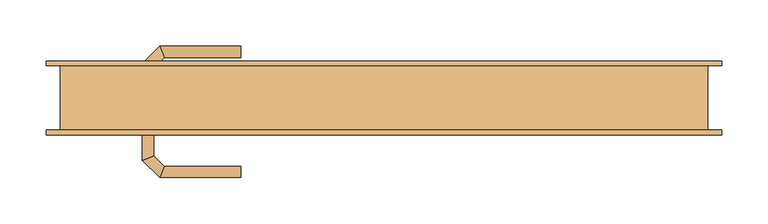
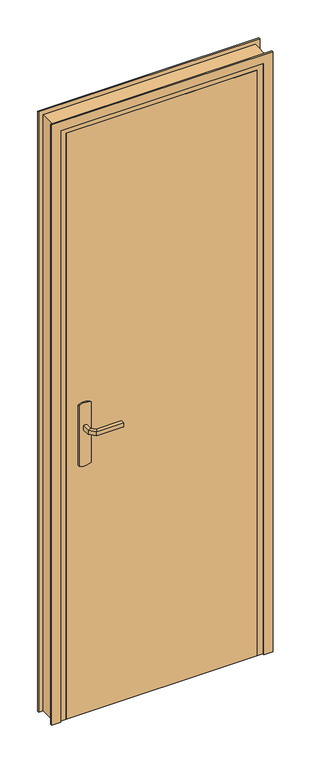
"""IFC4 building model written with IfcOpenShell, lengths in millimetres: door geometry, @_Int. Simple : @_PP (0.63m x 2.04m)."""

import ifcopenshell
import ifcopenshell.guid

model = None  # the IFC model being written
_history = None  # IfcOwnerHistory: only IFC2X3 demands one
_inside = {}  # id of a spatial element -> (the spatial element, [elements in it])
_under = {}  # id of a project, library or spatial element -> (it, [spatial elements below it])
_declared = {}  # id of a project -> (the project, [libraries it declares])
_typed = {}  # id of a type object -> (the type object, [elements of that type])
_made_of = {}  # id of a material, layer set ... -> (it, [elements and type objects made of it])


def new_model(schema):
    """Start an empty IFC model of exactly this schema.

    Asked for "IFC4X3", IfcOpenShell would pick the latest addendum, in which some entities
    have other attributes; the version numbers below select the first issue.
    IFC2X3 requires an IfcOwnerHistory on every rooted entity: one is made here for all.
    """
    global model, _history
    if schema == "IFC4X3":
        model = ifcopenshell.file(schema_version=(4, 3, 0, 0))
    else:
        model = ifcopenshell.file(schema=schema)
    _inside.clear()
    _under.clear()
    _declared.clear()
    _typed.clear()
    _made_of.clear()
    _history = None
    if model.schema == "IFC2X3":
        org = make("IfcOrganization", Name="unknown")
        user = make(
            "IfcPersonAndOrganization",
            ThePerson=make("IfcPerson", FamilyName="unknown"),
            TheOrganization=org,
        )
        app = make(
            "IfcApplication",
            ApplicationDeveloper=org,
            Version="unknown",
            ApplicationFullName="unknown",
            ApplicationIdentifier="unknown",
        )
        _history = make(
            "IfcOwnerHistory",
            OwningUser=user,
            OwningApplication=app,
            ChangeAction="ADDED",
            CreationDate=0,
        )
    return model


def make(cls, **values):
    """One entity of the class cls with the attributes given. An attribute that is None is left unset."""
    return model.create_entity(
        cls, **{name: value for name, value in values.items() if value is not None}
    )


def rooted(cls, **values):
    """An entity with a GlobalId (a new one), such as an element, a storey or a relation."""
    return make(cls, GlobalId=ifcopenshell.guid.new(), OwnerHistory=_history, **values)


def si_unit(unit_type, name, prefix=None):
    """IfcSIUnit, for example si_unit("LENGTHUNIT", "METRE", prefix="MILLI")."""
    return make("IfcSIUnit", UnitType=unit_type, Prefix=prefix, Name=name)


def assignment(units):
    """IfcUnitAssignment: the units of a project."""
    return None if units is None else make("IfcUnitAssignment", Units=units)


def point(xyz):
    """IfcCartesianPoint."""
    return None if xyz is None else make("IfcCartesianPoint", Coordinates=xyz)


def direction(xyz):
    """IfcDirection."""
    return None if xyz is None else make("IfcDirection", DirectionRatios=xyz)


def frame(location, z_axis=None, x_axis=None):
    """IfcAxis2Placement3D, a coordinate frame: its origin and axes. An axis left out is left unset."""
    return make(
        "IfcAxis2Placement3D",
        Location=point(location),
        Axis=direction(z_axis),
        RefDirection=direction(x_axis),
    )


def frame_2d(location, x_axis=None):
    """IfcAxis2Placement2D, a coordinate frame in the plane: its origin and x axis."""
    return make(
        "IfcAxis2Placement2D", Location=point(location), RefDirection=direction(x_axis)
    )


def origin():
    """The frame at (0, 0, 0) with its axes left unset."""
    return frame((0.0, 0.0, 0.0))


def origin_with_axes():
    """The frame at (0, 0, 0) with the z axis (0, 0, 1) and the x axis (1, 0, 0) written out."""
    return frame((0.0, 0.0, 0.0), z_axis=(0.0, 0.0, 1.0), x_axis=(1.0, 0.0, 0.0))


def place(relative_to, where):
    """IfcLocalPlacement: puts the frame where relative to a parent placement (None: the world)."""
    return make(
        "IfcLocalPlacement", PlacementRelTo=relative_to, RelativePlacement=where
    )


def context(
    kind, dimensions, precision=None, world=None, true_north=None, identifier=None
):
    """IfcGeometricRepresentationContext, for example the 3D "Model" context."""
    return make(
        "IfcGeometricRepresentationContext",
        ContextIdentifier=identifier,
        ContextType=kind,
        CoordinateSpaceDimension=dimensions,
        Precision=precision,
        WorldCoordinateSystem=world,
        TrueNorth=true_north,
    )


def project(units=None, contexts=None):
    """IfcProject with its units and contexts."""
    return rooted(
        "IfcProject",
        Name="project",
        RepresentationContexts=contexts,
        UnitsInContext=assignment(units),
    )


def spatial(cls, under=None, at=None, **own):
    """A site, building, storey or space (cls), placed at a placement, below another one or the project."""
    s = rooted(cls, ObjectPlacement=at, **own)
    if under is not None:
        _under.setdefault(under.id(), (under, []))[1].append(s)
    return s


def polyline(points):
    """IfcPolyline through the points."""
    return make("IfcPolyline", Points=[point(p) for p in points])


def circle_curve(where, radius):
    """IfcCircle in the frame where."""
    return make("IfcCircle", Position=where, Radius=radius)


def ellipse_curve(where, semi_axis1, semi_axis2):
    """IfcEllipse in the frame where."""
    return make(
        "IfcEllipse", Position=where, SemiAxis1=semi_axis1, SemiAxis2=semi_axis2
    )


def trimmed(basis, trim1, trim2, sense, master):
    """IfcTrimmedCurve: the piece of a basis curve between two trims."""
    return make(
        "IfcTrimmedCurve",
        BasisCurve=basis,
        Trim1=trim1,
        Trim2=trim2,
        SenseAgreement=sense,
        MasterRepresentation=master,
    )


def segment(curve, same_sense, transition):
    """IfcCompositeCurveSegment."""
    return make(
        "IfcCompositeCurveSegment",
        Transition=transition,
        SameSense=same_sense,
        ParentCurve=curve,
    )


def composite_curve(segments, self_intersect=None):
    """IfcCompositeCurve: segments joined end to end."""
    return make("IfcCompositeCurve", Segments=segments, SelfIntersect=self_intersect)


def outline(outer, holes=None, kind="AREA"):
    """IfcArbitraryClosedProfileDef: a profile drawn as a closed curve; with holes, ...WithVoids."""
    if holes is None:
        return make("IfcArbitraryClosedProfileDef", ProfileType=kind, OuterCurve=outer)
    return make(
        "IfcArbitraryProfileDefWithVoids",
        ProfileType=kind,
        OuterCurve=outer,
        InnerCurves=holes,
    )


def extrude(swept, where, along, depth):
    """IfcExtrudedAreaSolid: the profile swept, set in the frame where, extruded along a direction by depth."""
    return make(
        "IfcExtrudedAreaSolid",
        SweptArea=swept,
        Position=where,
        ExtrudedDirection=direction(along),
        Depth=depth,
    )


def faces_of(points, faces, orient=None, outer=None):
    """IfcFace entities. A face is a list of loops; a loop is a list of indices into points, from 0.

    orient and outer hold one flag for each loop. By default every Orientation is true, the
    first loop of a face is its IfcFaceOuterBound and the others are IfcFaceBound.
    """
    made = []
    for i, loops in enumerate(faces):
        bounds = []
        for j, loop in enumerate(loops):
            is_outer = j == 0 if outer is None else outer[i][j]
            bounds.append(
                make(
                    "IfcFaceOuterBound" if is_outer else "IfcFaceBound",
                    Bound=make("IfcPolyLoop", Polygon=[points[k] for k in loop]),
                    Orientation=True if orient is None else orient[i][j],
                )
            )
        made.append(make("IfcFace", Bounds=bounds))
    return made


def faceted_brep(points, faces, orient=None, outer=None, voids=None):
    """IfcFacetedBrep: a solid bounded by flat faces; with voids (closed shells), ...WithVoids."""
    shared = [point(p) for p in points]
    hull = make("IfcClosedShell", CfsFaces=faces_of(shared, faces, orient, outer))
    if voids is None:
        return make("IfcFacetedBrep", Outer=hull)
    return make(
        "IfcFacetedBrepWithVoids",
        Outer=hull,
        Voids=[
            make(cls, CfsFaces=faces_of(shared, fs, o, b)) for cls, fs, o, b in voids
        ],
    )


def shape(context_of_items, identifier, shape_type, items):
    """IfcShapeRepresentation: the items that make up one representation, for example the "Body"."""
    return make(
        "IfcShapeRepresentation",
        ContextOfItems=context_of_items,
        RepresentationIdentifier=identifier,
        RepresentationType=shape_type,
        Items=items,
    )


def source(mapping_origin, context_of_items, identifier, shape_type, items):
    """IfcRepresentationMap: a shape defined once, which mapped items show again and again."""
    return make(
        "IfcRepresentationMap",
        MappingOrigin=mapping_origin,
        MappedRepresentation=shape(context_of_items, identifier, shape_type, items),
    )


def transform(
    local_origin,
    x_axis=None,
    y_axis=None,
    z_axis=None,
    scale=None,
    scale2=None,
    scale3=None,
    uniform=True,
):
    """IfcCartesianTransformationOperator3D, or its non-uniform kind. x_axis, y_axis, z_axis: its Axis1, 2, 3."""
    if uniform:
        return make(
            "IfcCartesianTransformationOperator3D",
            Axis1=direction(x_axis),
            Axis2=direction(y_axis),
            LocalOrigin=point(local_origin),
            Scale=scale,
            Axis3=direction(z_axis),
        )
    return make(
        "IfcCartesianTransformationOperator3DnonUniform",
        Axis1=direction(x_axis),
        Axis2=direction(y_axis),
        LocalOrigin=point(local_origin),
        Scale=scale,
        Axis3=direction(z_axis),
        Scale2=scale2,
        Scale3=scale3,
    )


def mapped(mapping_source, mapping_target):
    """IfcMappedItem: shows the shape of a source again, moved by a transform."""
    return make(
        "IfcMappedItem", MappingSource=mapping_source, MappingTarget=mapping_target
    )


def made_of(thing, what):
    """Note that an element or type object is made of a material, layer set ...; save() writes the relation."""
    if what is not None:
        _made_of.setdefault(what.id(), (what, []))[1].append(thing)
    return thing


def element(
    cls,
    number,
    at=None,
    inside=None,
    cuts=None,
    type_object=None,
    material=None,
    context=None,
    identifier="Body",
    shape_type=None,
    held_by="IfcProductDefinitionShape",
    body=None,
    shapes=None,
    **own,
):
    """One element of the class cls, such as IfcWall. Its Tag is "e" and its number.

    at: its placement. inside: the storey or other place that contains it. cuts: it is an
    opening in that element (IfcRelVoidsElement). A single representation is given by context,
    identifier, shape_type and body (its items); several are given by shapes. held_by: the class
    of the entity that holds the representations. save() writes the other relations.
    """
    e = rooted(cls, Tag="e%d" % number, ObjectPlacement=at, **own)
    if body is not None:
        shapes = [shape(context, identifier, shape_type, body)]
    if shapes is not None:
        e.Representation = make(held_by, Representations=shapes)
    if inside is not None:
        _inside.setdefault(inside.id(), (inside, []))[1].append(e)
    if cuts is not None:
        rooted(
            "IfcRelVoidsElement", RelatingBuildingElement=cuts, RelatedOpeningElement=e
        )
    if type_object is not None:
        _typed.setdefault(type_object.id(), (type_object, []))[1].append(e)
    return made_of(e, material)


def aggregate(whole, parts):
    """IfcRelAggregates: a whole, such as a stair, and the parts it consists of."""
    return rooted("IfcRelAggregates", RelatingObject=whole, RelatedObjects=parts)


def save(model, path):
    """Write the relations noted so far, then the file.

    IfcRelAggregates (storeys below a building ...), IfcRelContainedInSpatialStructure (elements
    in a storey), IfcRelDefinesByType, IfcRelAssociatesMaterial and IfcRelDeclares: one each for
    every whole, place, type object, material and project.
    """
    for whole, parts in _under.values():
        aggregate(whole, parts)
    for where, things in _inside.values():
        rooted(
            "IfcRelContainedInSpatialStructure",
            RelatedElements=things,
            RelatingStructure=where,
        )
    for kind, things in _typed.values():
        rooted("IfcRelDefinesByType", RelatedObjects=things, RelatingType=kind)
    for what, things in _made_of.values():
        rooted("IfcRelAssociatesMaterial", RelatedObjects=things, RelatingMaterial=what)
    for by, libraries in _declared.values():
        rooted("IfcRelDeclares", RelatingContext=by, RelatedDefinitions=libraries)
    model.write(path)


def plane_surface(at):
    """IfcPlane: the flat surface through the origin of the frame at, square to its z axis."""
    return make("IfcPlane", Position=at)


def cylinder_surface(at, radius):
    """IfcCylindricalSurface: all points at the distance radius from the z axis of the frame at."""
    return make("IfcCylindricalSurface", Position=at, Radius=radius)


def advanced_brep(points, edges, surfaces, faces):
    """IfcAdvancedBrep: a solid bounded by faces that lie on surfaces and meet in shared edges.

    An edge is (start, end): straight between two places in points (the first is 0);
    or (start, end, curve); or (start, end, curve, False) where it runs against its curve.
    A face is (place in surfaces, loops), or (place, loops, False) where it looks against
    its surface's normal. A loop lists edges by number (the first is 1), with a minus sign
    where the edge is run from its end to its start. The first loop is the outer one.
    """
    corners = [point(p) for p in points]
    vertices = [make("IfcVertexPoint", VertexGeometry=c) for c in corners]
    made = []
    for start, end, *more in edges:
        made.append(
            make(
                "IfcEdgeCurve",
                EdgeStart=vertices[start],
                EdgeEnd=vertices[end],
                EdgeGeometry=more[0] if more else make("IfcPolyline", Points=[corners[start], corners[end]]),
                SameSense=more[1] if len(more) > 1 else True,
            )
        )
    hull = []
    for where, loops, *sense in faces:
        bounds = []
        for j, loop in enumerate(loops):
            ring = [make("IfcOrientedEdge", EdgeElement=made[abs(k) - 1], Orientation=k > 0) for k in loop]
            bounds.append(
                make(
                    "IfcFaceOuterBound" if j == 0 else "IfcFaceBound",
                    Bound=make("IfcEdgeLoop", EdgeList=ring),
                    Orientation=True,
                )
            )
        hull.append(make("IfcAdvancedFace", Bounds=bounds, FaceSurface=surfaces[where], SameSense=sense[0] if sense else True))
    return make("IfcAdvancedBrep", Outer=make("IfcClosedShell", CfsFaces=hull))


def door_50a5e481(model_context):
    return source(origin(), model_context, "Body", "SolidModel", [
        extrude(outline(composite_curve([segment(trimmed(circle_curve(frame_2d((904.6410162, -290.0)), 40.0), [point((870.0, -310.0))], [point((870.0, -270.0))], False, "CARTESIAN"), True, "CONTINUOUS"), segment(polyline([(870.0, -270.0), (1080.0, -270.0)]), True, "CONTINUOUS"), segment(trimmed(circle_curve(frame_2d((1045.3589838, -290.0)), 40.0), [point((1080.0, -270.0))], [point((1080.0, -310.0))], False, "CARTESIAN"), True, "CONTINUOUS"), segment(polyline([(1080.0, -310.0), (870.0, -310.0)]), True, "CONTINUOUS")], self_intersect=False)), frame((0.0, -40.0, 0.0), z_axis=(0.0, 1.0, 0.0), x_axis=(0.0, 0.0, 1.0)), (0.0, 0.0, 1.0), 5.0),
        extrude(outline(composite_curve([segment(trimmed(circle_curve(frame_2d((1045.3589838, -290.0)), 40.0), [point((1080.0, -270.0))], [point((1080.0, -310.0))], False, "CARTESIAN"), True, "CONTINUOUS"), segment(polyline([(1080.0, -310.0), (870.0, -310.0)]), True, "CONTINUOUS"), segment(trimmed(circle_curve(frame_2d((904.6410162, -290.0)), 40.0), [point((870.0, -310.0))], [point((870.0, -270.0))], False, "CARTESIAN"), True, "CONTINUOUS"), segment(polyline([(870.0, -270.0), (1080.0, -270.0)]), True, "CONTINUOUS")], self_intersect=False)), frame((0.0, 5.0, 0.0), z_axis=(0.0, 1.0, 0.0), x_axis=(0.0, 0.0, 1.0)), (0.0, 0.0, 1.0), 5.0),
        advanced_brep(
        [(-296.0, -40.0, 1007.0), (-284.0, -40.0, 1007.0), (-284.0, -40.0, 993.0), (-296.0, -40.0, 993.0), (-296.0, -67.6509507, 1007.0), (-284.0, -62.680388, 1007.0), (-284.0, -62.680388, 993.0), (-296.0, -67.6509507, 993.0), (-277.62279, -86.0281607, 1007.0), (-272.6522273, -74.0281607, 1007.0), (-272.6522273, -74.0281607, 993.0), (-277.62279, -86.0281607, 993.0), (-189.9813594, -86.0281607, 1007.0), (-189.9813594, -86.0281607, 993.0), (-189.9813594, -74.0281607, 993.0), (-189.9813594, -74.0281607, 1007.0)],
        [
            (0, 1, circle_curve(frame((-290.0, -40.0, 986.9542278), z_axis=(0.0, 1.0, 0.0), x_axis=(1.0, 0.0, 0.0)), 20.9244589)),
            (1, 2),
            (2, 3, circle_curve(frame((-290.0, -40.0, 1013.0457722), z_axis=(0.0, 1.0, 0.0), x_axis=(1.0, 0.0, 0.0)), 20.9244589)),
            (3, 0),
            (0, 4),
            (4, 5, ellipse_curve(frame((-290.0, -65.1656693, 986.9542278), z_axis=(-0.3826834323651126, 0.9238795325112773, 0.0), x_axis=(0.9238795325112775, 0.38268343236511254, 0.0)), 22.6484711, 20.9244589)),
            (5, 1),
            (5, 6),
            (6, 2),
            (6, 7, ellipse_curve(frame((-290.0, -65.1656693, 1013.0457722), z_axis=(-0.3826834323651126, 0.9238795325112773, 0.0), x_axis=(0.9238795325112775, 0.38268343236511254, 0.0)), 22.6484711, 20.9244589)),
            (7, 3),
            (7, 4),
            (4, 8),
            (8, 9, ellipse_curve(frame((-275.1375086, -80.0281607, 986.9542278), z_axis=(-0.9238795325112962, 0.38268343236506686, 0.0), x_axis=(0.3826834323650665, 0.9238795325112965, 0.0)), 22.6484711, 20.9244589)),
            (9, 5),
            (9, 10),
            (10, 6),
            (10, 11, ellipse_curve(frame((-275.1375086, -80.0281607, 1013.0457722), z_axis=(-0.9238795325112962, 0.38268343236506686, 0.0), x_axis=(0.3826834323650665, 0.9238795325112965, 0.0)), 22.6484711, 20.9244589)),
            (11, 7),
            (11, 8),
            (12, 13),
            (13, 14, circle_curve(frame((-189.9813594, -80.0281607, 1013.0457722), z_axis=(1.0, 0.0, 0.0), x_axis=(0.0, 1.0, 0.0)), 20.9244589)),
            (14, 15),
            (15, 12, circle_curve(frame((-189.9813594, -80.0281607, 986.9542278), z_axis=(1.0, 0.0, 0.0), x_axis=(0.0, 1.0, 0.0)), 20.9244589)),
            (8, 12),
            (15, 9),
            (14, 10),
            (13, 11),
        ],
        [
            plane_surface(frame((-299.2195445, -40.0, 1000.0), z_axis=(0.0, 1.0, 0.0), x_axis=(0.0, 0.0, -1.0))),
            cylinder_surface(frame((-290.0, -40.0, 986.9542278), z_axis=(0.0, 1.0, 0.0), x_axis=(1.0, 0.0, 0.0)), 20.9244589),
            plane_surface(frame((-284.0, -40.0, 1007.0), z_axis=(1.0, 0.0, 0.0), x_axis=(0.0, -1.0, 0.0))),
            cylinder_surface(frame((-290.0, -40.0, 1013.0457722), z_axis=(0.0, 1.0, 0.0), x_axis=(1.0, 0.0, 0.0)), 20.9244589),
            plane_surface(frame((-296.0, -40.0, 993.0), z_axis=(-1.0, 0.0, 0.0), x_axis=(0.0, -1.0, 0.0))),
            cylinder_surface(frame((-290.0, -65.1656693, 986.9542278), z_axis=(-0.7071067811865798, 0.7071067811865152, 0.0), x_axis=(0.7071067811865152, 0.7071067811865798, 0.0)), 20.9244589),
            plane_surface(frame((-284.0, -62.680388, 1007.0), z_axis=(0.7071067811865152, 0.7071067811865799, 0.0), x_axis=(0.7071067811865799, -0.7071067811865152, 0.0))),
            cylinder_surface(frame((-290.0, -65.1656693, 1013.0457722), z_axis=(-0.7071067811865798, 0.7071067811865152, 0.0), x_axis=(0.7071067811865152, 0.7071067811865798, 0.0)), 20.9244589),
            plane_surface(frame((-296.0, -67.6509507, 993.0), z_axis=(-0.7071067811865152, -0.7071067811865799, 0.0), x_axis=(0.7071067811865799, -0.7071067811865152, 0.0))),
            plane_surface(frame((-189.9813594, -80.0281607, 990.7804555), z_axis=(1.0, 0.0, 0.0), x_axis=(0.0, 1.0, 0.0))),
            cylinder_surface(frame((-275.1375086, -80.0281607, 986.9542278), z_axis=(-1.0, 0.0, 0.0), x_axis=(0.0, 1.0, 0.0)), 20.9244589),
            plane_surface(frame((-272.6522273, -74.0281607, 1007.0), z_axis=(0.0, 1.0, 0.0), x_axis=(1.0, 0.0, 0.0))),
            cylinder_surface(frame((-275.1375086, -80.0281607, 1013.0457722), z_axis=(-1.0, 0.0, 0.0), x_axis=(0.0, 1.0, 0.0)), 20.9244589),
            plane_surface(frame((-277.62279, -86.0281607, 993.0), z_axis=(0.0, -1.0, 0.0), x_axis=(1.0, 0.0, 0.0))),
        ],
        [
            (0, [[1, 2, 3, 4]]),
            (1, [[-1, 5, 6, 7]]),
            (2, [[-2, -7, 8, 9]]),
            (3, [[-3, -9, 10, 11]]),
            (4, [[-4, -11, 12, -5]]),
            (5, [[-6, 13, 14, 15]]),
            (6, [[-8, -15, 16, 17]]),
            (7, [[-10, -17, 18, 19]]),
            (8, [[-12, -19, 20, -13]]),
            (9, [[21, 22, 23, 24]]),
            (10, [[-14, 25, -24, 26]]),
            (11, [[-16, -26, -23, 27]]),
            (12, [[-18, -27, -22, 28]]),
            (13, [[-20, -28, -21, -25]]),
        ],
    ),
        advanced_brep(
        [(-284.0, 10.0, 993.0), (-284.0, 10.0, 1007.0), (-296.0, 10.0, 1007.0), (-296.0, 10.0, 993.0), (-284.0, 32.4852045, 993.0), (-284.0, 32.4852045, 1007.0), (-296.0, 37.4557673, 1007.0), (-296.0, 37.4557673, 993.0), (-272.5147186, 43.9704859, 993.0), (-272.5147186, 43.9704859, 1007.0), (-277.4852814, 55.9704859, 1007.0), (-277.4852814, 55.9704859, 993.0), (-189.9542163, 43.9704859, 993.0), (-189.9542163, 55.9704859, 993.0), (-189.9542163, 55.9704859, 1007.0), (-189.9542163, 43.9704859, 1007.0)],
        [
            (0, 1),
            (1, 2, circle_curve(frame((-290.0, 10.0, 986.9542278), z_axis=(0.0, -1.0, 0.0), x_axis=(-1.0, 0.0, 0.0)), 20.9244589)),
            (2, 3),
            (3, 0, circle_curve(frame((-290.0, 10.0, 1013.0457722), z_axis=(0.0, -1.0, 0.0), x_axis=(-1.0, 0.0, 0.0)), 20.9244589)),
            (0, 4),
            (4, 5),
            (5, 1),
            (5, 6, ellipse_curve(frame((-290.0, 34.9704859, 986.9542278), z_axis=(-0.3826834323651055, -0.9238795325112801, 0.0), x_axis=(0.9238795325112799, -0.3826834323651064, 0.0)), 22.6484711, 20.9244589)),
            (6, 2),
            (6, 7),
            (7, 3),
            (7, 4, ellipse_curve(frame((-290.0, 34.9704859, 1013.0457722), z_axis=(-0.3826834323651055, -0.9238795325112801, 0.0), x_axis=(0.9238795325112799, -0.3826834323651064, 0.0)), 22.6484711, 20.9244589)),
            (4, 8),
            (8, 9),
            (9, 5),
            (9, 10, ellipse_curve(frame((-275.0, 49.9704859, 986.9542278), z_axis=(-0.9238795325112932, -0.382683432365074, 0.0), x_axis=(0.3826834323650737, -0.9238795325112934, 0.0)), 22.6484711, 20.9244589)),
            (10, 6),
            (10, 11),
            (11, 7),
            (11, 8, ellipse_curve(frame((-275.0, 49.9704859, 1013.0457722), z_axis=(-0.9238795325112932, -0.382683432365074, 0.0), x_axis=(0.3826834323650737, -0.9238795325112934, 0.0)), 22.6484711, 20.9244589)),
            (12, 13, circle_curve(frame((-189.9542163, 49.9704859, 1013.0457722), z_axis=(1.0, 0.0, 0.0), x_axis=(0.0, 1.0, 0.0)), 20.9244589)),
            (13, 14),
            (14, 15, circle_curve(frame((-189.9542163, 49.9704859, 986.9542278), z_axis=(1.0, 0.0, 0.0), x_axis=(0.0, 1.0, 0.0)), 20.9244589)),
            (15, 12),
            (8, 12),
            (15, 9),
            (14, 10),
            (13, 11),
        ],
        [
            plane_surface(frame((-299.2195445, 10.0, 1000.0), z_axis=(0.0, -1.0, 0.0), x_axis=(0.0, 0.0, 1.0))),
            plane_surface(frame((-284.0, 10.0, 993.0), z_axis=(1.0, 0.0, 0.0), x_axis=(0.0, 1.0, 0.0))),
            cylinder_surface(frame((-290.0, 10.0, 986.9542278), z_axis=(0.0, -1.0, 0.0), x_axis=(-1.0, 0.0, 0.0)), 20.9244589),
            plane_surface(frame((-296.0, 10.0, 1007.0), z_axis=(-1.0, 0.0, 0.0), x_axis=(0.0, 1.0, 0.0))),
            cylinder_surface(frame((-290.0, 10.0, 1013.0457722), z_axis=(0.0, -1.0, 0.0), x_axis=(-1.0, 0.0, 0.0)), 20.9244589),
            plane_surface(frame((-284.0, 32.4852045, 993.0), z_axis=(0.7071067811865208, -0.7071067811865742, 0.0), x_axis=(0.7071067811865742, 0.7071067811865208, 0.0))),
            cylinder_surface(frame((-290.0, 34.9704859, 986.9542278), z_axis=(-0.7071067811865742, -0.7071067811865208, 0.0), x_axis=(-0.7071067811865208, 0.7071067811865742, 0.0)), 20.9244589),
            plane_surface(frame((-296.0, 37.4557673, 1007.0), z_axis=(-0.7071067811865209, 0.7071067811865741, 0.0), x_axis=(0.7071067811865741, 0.7071067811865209, 0.0))),
            cylinder_surface(frame((-290.0, 34.9704859, 1013.0457722), z_axis=(-0.7071067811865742, -0.7071067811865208, 0.0), x_axis=(-0.7071067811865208, 0.7071067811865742, 0.0)), 20.9244589),
            plane_surface(frame((-189.9542163, 49.9704859, 990.7804555), z_axis=(1.0, 0.0, 0.0), x_axis=(0.0, 1.0, 0.0))),
            plane_surface(frame((-272.5147186, 43.9704859, 993.0), z_axis=(0.0, -1.0, 0.0), x_axis=(1.0, 0.0, 0.0))),
            cylinder_surface(frame((-275.0, 49.9704859, 986.9542278), z_axis=(-1.0, 0.0, 0.0), x_axis=(0.0, 1.0, 0.0)), 20.9244589),
            plane_surface(frame((-277.4852814, 55.9704859, 1007.0), z_axis=(0.0, 1.0, 0.0), x_axis=(1.0, 0.0, 0.0))),
            cylinder_surface(frame((-275.0, 49.9704859, 1013.0457722), z_axis=(-1.0, 0.0, 0.0), x_axis=(0.0, 1.0, 0.0)), 20.9244589),
        ],
        [
            (0, [[1, 2, 3, 4]]),
            (1, [[-1, 5, 6, 7]]),
            (2, [[-2, -7, 8, 9]]),
            (3, [[-3, -9, 10, 11]]),
            (4, [[-4, -11, 12, -5]]),
            (5, [[-6, 13, 14, 15]]),
            (6, [[-8, -15, 16, 17]]),
            (7, [[-10, -17, 18, 19]]),
            (8, [[-12, -19, 20, -13]]),
            (9, [[21, 22, 23, 24]]),
            (10, [[-14, 25, -24, 26]]),
            (11, [[-16, -26, -23, 27]]),
            (12, [[-18, -27, -22, 28]]),
            (13, [[-20, -28, -21, -25]]),
        ],
    ),
        extrude(outline(polyline([(-350.0, 5.0), (280.0, 5.0), (280.0, -35.0), (-350.0, -35.0), (-350.0, 5.0)])), origin_with_axes(), (0.0, 0.0, 1.0), 2040.0),
        faceted_brep([(-385.0, -35.0, 0.0), (-385.0, 35.0, 0.0), (-335.0, 35.0, 0.0), (-335.0, 5.0, 0.0), (-350.0, 5.0, 0.0), (-350.0, -35.0, 0.0), (-385.0, -35.0, 2075.0), (-385.0, 35.0, 2075.0), (315.0, 35.0, 2075.0), (315.0, 35.0, 0.0), (265.0, 35.0, 0.0), (265.0, 35.0, 2025.0), (-335.0, 35.0, 2025.0), (-335.0, 5.0, 2025.0), (265.0, 5.0, 2025.0), (265.0, 5.0, 0.0), (280.0, 5.0, 0.0), (280.0, 5.0, 2040.0), (-350.0, 5.0, 2040.0), (-350.0, -35.0, 2040.0), (280.0, -35.0, 2040.0), (280.0, -35.0, 0.0), (315.0, -35.0, 0.0), (315.0, -35.0, 2075.0)], [[[0, 1, 2, 3, 4, 5]], [[1, 0, 6, 7]], [[2, 1, 7, 8, 9, 10, 11, 12]], [[3, 2, 12, 13]], [[4, 3, 13, 14, 15, 16, 17, 18]], [[5, 4, 18, 19]], [[0, 5, 19, 20, 21, 22, 23, 6]], [[8, 23, 22, 9]], [[22, 21, 16, 15, 10, 9]], [[14, 11, 10, 15]], [[20, 17, 16, 21]], [[7, 6, 23, 8]], [[13, 12, 11, 14]], [[19, 18, 17, 20]]]),
        extrude(outline(polyline([(0.0, -400.0), (0.0, -370.0), (2060.0, -370.0), (2060.0, 300.0), (0.0, 300.0), (0.0, 330.0), (2090.0, 330.0), (2090.0, -400.0), (0.0, -400.0)])), frame((0.0, -40.0, 0.0), z_axis=(0.0, 1.0, 0.0), x_axis=(0.0, 0.0, 1.0)), (0.0, 0.0, 1.0), 5.0),
        extrude(outline(polyline([(0.0, -400.0), (0.0, -370.0), (2060.0, -370.0), (2060.0, 300.0), (0.0, 300.0), (0.0, 330.0), (2090.0, 330.0), (2090.0, -400.0), (0.0, -400.0)])), frame((0.0, 35.0, 0.0), z_axis=(0.0, 1.0, 0.0), x_axis=(0.0, 0.0, 1.0)), (0.0, 0.0, 1.0), 5.0),
    ])


if __name__ == "__main__":
    model = new_model("IFC4")
    model_context = context("Model", 3, world=origin())
    ifc_project = project(units=[si_unit("LENGTHUNIT", "METRE", prefix="MILLI")], contexts=[model_context])
    site = spatial("IfcSite", under=ifc_project)
    building = spatial("IfcBuilding", under=site)
    placement = place(None, origin())
    door_shape = door_50a5e481(model_context)
    element("IfcDoor", 1, ObjectType="@_Int. Simple : @_PP (0.63m x 2.04m)", at=placement, inside=building, context=model_context, shape_type="MappedRepresentation", body=[
        mapped(door_shape, transform((0.0, 0.0, 0.0), x_axis=(1.0, 0.0, 0.0), y_axis=(0.0, 1.0, 0.0), z_axis=(0.0, 0.0, 1.0))),
    ])
    save(model, "model.ifc")
